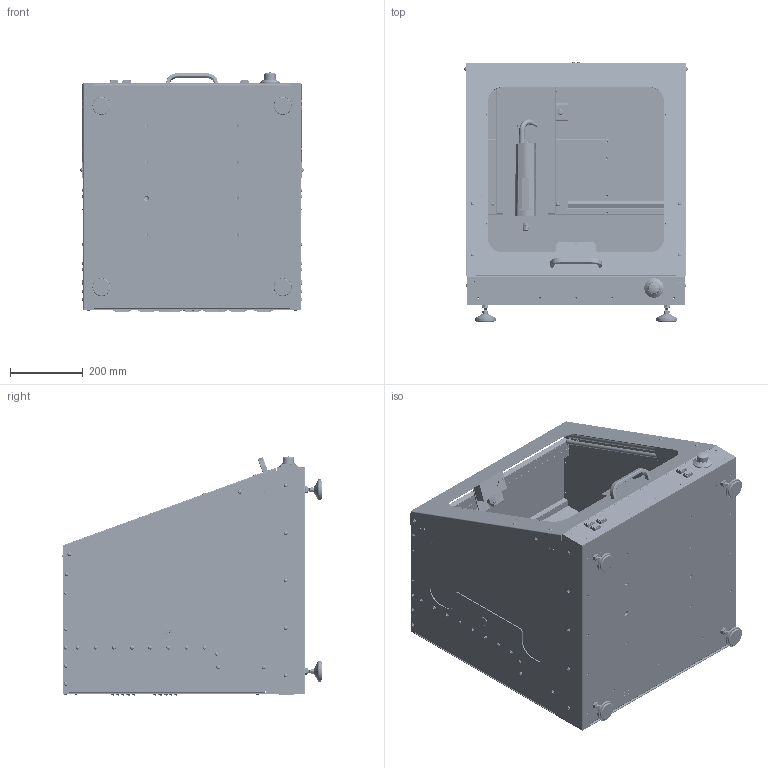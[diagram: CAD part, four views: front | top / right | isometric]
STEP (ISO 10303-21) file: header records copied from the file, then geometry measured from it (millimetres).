
FILE_DESCRIPTION (( 'STEP AP203' ), '1' );
FILE_NAME ('DZ 1300-2 Blechmaschine ICP 30-20.STEP', '2007-04-17T12:36:56', ( ' ' ), ( ' ' ), 'SwSTEP 2.0', 'SolidWorks 2006089', '' );
FILE_SCHEMA (( 'CONFIG_CONTROL_DESIGN' ));
Products named in the file (1): DZ 1300-2 Blechmaschine ICP 30-20
Bounding box: 615.4 x 717.16 x 659.42 mm (x, y, z)
Volume: 14884306.7 mm3; surface area: 9485568.6 mm2
Topology: 164 solids, 164 shells, 8688 faces, 21682 edges, 13163 vertices
Faces by surface type: plane 4402, cylinder 2256, cone 1240, torus 450, bspline 190, sphere 150
Entity records: 272587 total; most frequent: CARTESIAN_POINT 62624, DIRECTION 44938, ORIENTED_EDGE 42856, EDGE_CURVE 21428, AXIS2_PLACEMENT_3D 16231, VERTEX_POINT 13163, VECTOR 12476, LINE 12476
